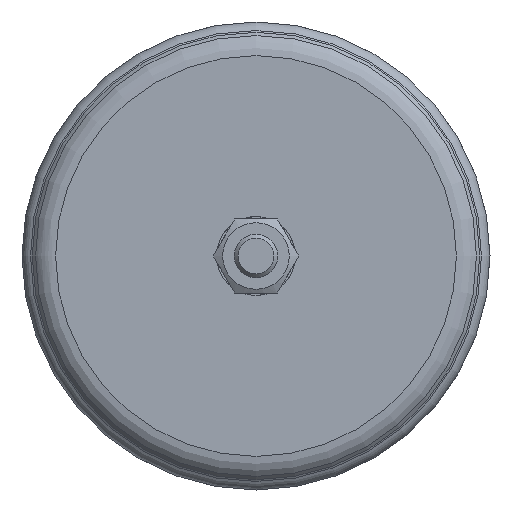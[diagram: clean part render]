
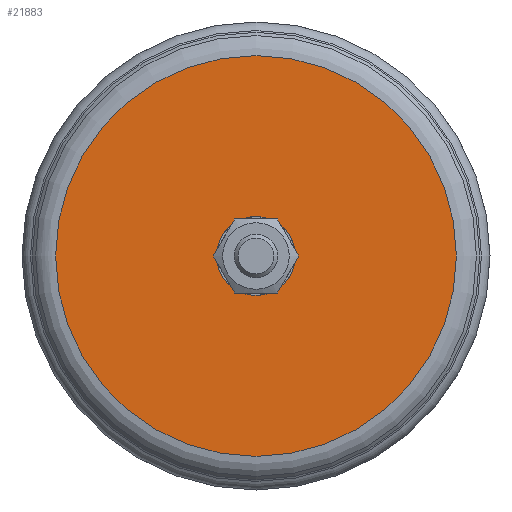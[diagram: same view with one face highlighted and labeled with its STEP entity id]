
A CAD part, front view. The second image highlights one B-rep face of the part: STEP entity #21883.
In plain terms, the highlighted planar face has unit normal (0, -1, 0).
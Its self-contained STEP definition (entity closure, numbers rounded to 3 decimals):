
#5150=PLANE('',#23216);
#5816=FACE_BOUND('',#7345,.T.);
#6026=FACE_OUTER_BOUND('',#7344,.T.);
#7344=EDGE_LOOP('',(#15251));
#7345=EDGE_LOOP('',(#15252));
#8682=CIRCLE('',#23196,3.979);
#8691=CIRCLE('',#23215,46.035);
#9229=VERTEX_POINT('',#30728);
#9238=VERTEX_POINT('',#30756);
#11591=EDGE_CURVE('',#9229,#9229,#8682,.T.);
#11600=EDGE_CURVE('',#9238,#9238,#8691,.T.);
#15251=ORIENTED_EDGE('',*,*,#11600,.T.);
#15252=ORIENTED_EDGE('',*,*,#11591,.T.);
#21883=ADVANCED_FACE('',(#6026,#5816),#5150,.T.);
#23196=AXIS2_PLACEMENT_3D('',#30729,#25120,#25121);
#23215=AXIS2_PLACEMENT_3D('',#30757,#25158,#25159);
#23216=AXIS2_PLACEMENT_3D('',#30758,#25160,#25161);
#25120=DIRECTION('center_axis',(0.,1.,0.));
#25121=DIRECTION('ref_axis',(1.,0.,0.));
#25158=DIRECTION('center_axis',(0.,-1.,0.));
#25159=DIRECTION('ref_axis',(-1.,0.,0.));
#25160=DIRECTION('center_axis',(0.,-1.,0.));
#25161=DIRECTION('ref_axis',(0.,0.,-1.));
#30728=CARTESIAN_POINT('',(-3.982,-268.741,0.));
#30729=CARTESIAN_POINT('Origin',(-0.003,-268.741,
0.));
#30756=CARTESIAN_POINT('',(-46.038,-268.741,0.));
#30757=CARTESIAN_POINT('Origin',(-0.003,-268.741,
0.));
#30758=CARTESIAN_POINT('Origin',(-23.021,-268.741,0.));
